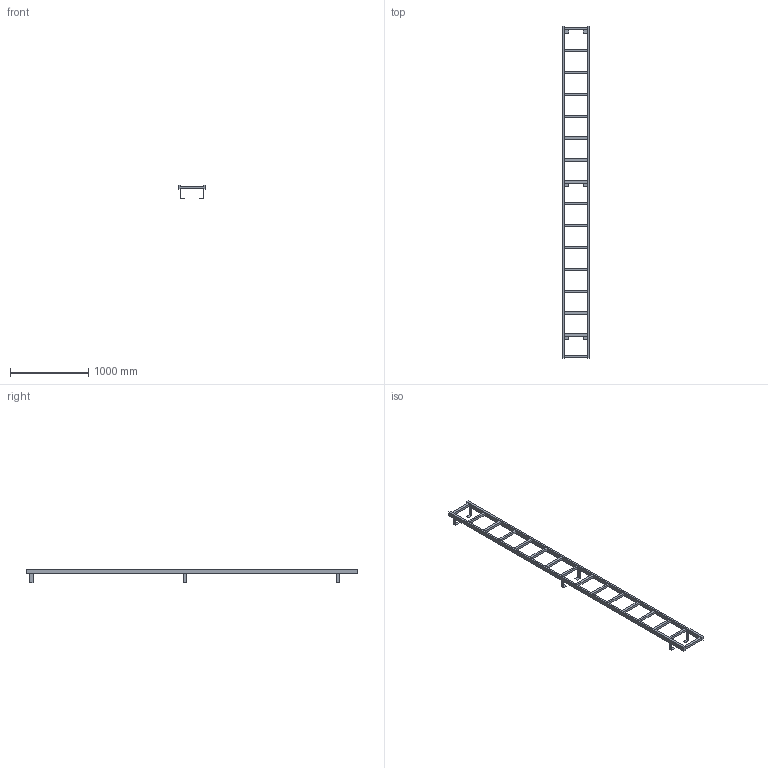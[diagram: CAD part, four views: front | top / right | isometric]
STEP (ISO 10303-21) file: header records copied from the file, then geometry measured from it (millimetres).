
FILE_DESCRIPTION((''),'2;1');
FILE_NAME('017_000109','2017-06-12T',('set'),('HUBER SE'),'PRO/ENGINEER BY PARAMETRIC TECHNOLOGY CORPORATION, 2015280','PRO/ENGINEER BY PARAMETRIC TECHNOLOGY CORPORATION, 2015280','');
FILE_SCHEMA(('CONFIG_CONTROL_DESIGN'));
Length unit declared in the file: millimetre
Products named in the file (1): 017_000109
Bounding box: 350 x 4250 x 178.5 mm (x, y, z)
Volume: 16529940 mm3; surface area: 2036132 mm2
Topology: 1 solids, 1 shells, 122 faces, 461 edges, 335 vertices
Faces by surface type: plane 122
Entity records: 4746 total; most frequent: CARTESIAN_POINT 975, ORIENTED_EDGE 720, DIRECTION 692, VECTOR 414, LINE 414, EDGE_CURVE 360, VERTEX_POINT 234, EDGE_LOOP 146
